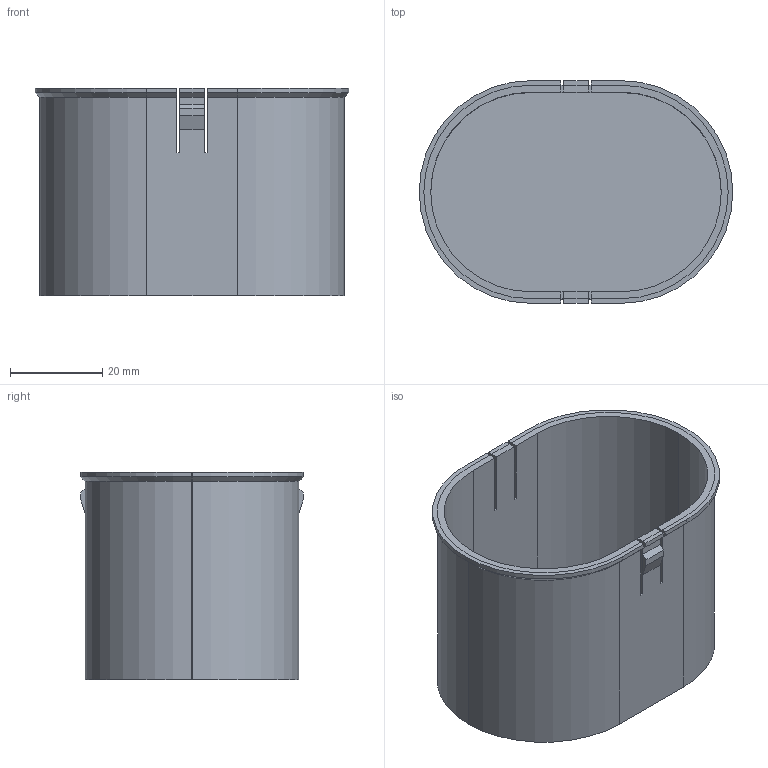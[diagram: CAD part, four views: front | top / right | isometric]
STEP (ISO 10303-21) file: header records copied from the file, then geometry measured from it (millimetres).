
FILE_DESCRIPTION(('Open CASCADE Model'),'2;1');
FILE_NAME('Open CASCADE Shape Model','2026-11-01T05:34:05',('Author'),( 'Open CASCADE'),'Open CASCADE STEP processor 7.8','Open CASCADE 7.8' ,'Unknown');
FILE_SCHEMA(('AUTOMOTIVE_DESIGN { 1 0 10303 214 1 1 1 1 }'));
Length unit declared in the file: millimetre
Products named in the file (1): Open CASCADE STEP translator 7.8 16
Bounding box: 67.97 x 48.27 x 45 mm (x, y, z)
Volume: 17066.2 mm3; surface area: 21446.8 mm2
Topology: 1 solids, 1 shells, 74 faces, 200 edges, 128 vertices
Faces by surface type: plane 58, cylinder 12, cone 4
Entity records: 4900 total; most frequent: CARTESIAN_POINT 887, DIRECTION 744, LINE 524, VECTOR 524, ORIENTED_EDGE 400, PCURVE 400, DEFINITIONAL_REPRESENTATION 400, EDGE_CURVE 200
